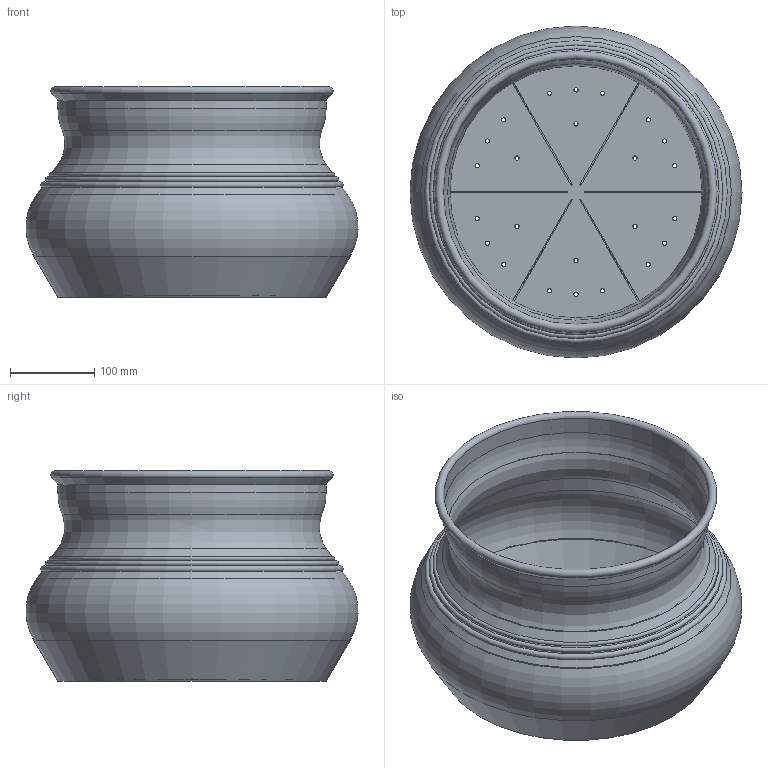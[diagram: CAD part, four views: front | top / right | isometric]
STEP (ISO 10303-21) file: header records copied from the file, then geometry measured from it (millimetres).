
FILE_DESCRIPTION(/* description */ (''),/* implementation_level */ '2;1');
FILE_NAME(/* name */ 'LR2406-S17-H250-D400_step.step',/* time_stamp */ '2024-02-01T11:04:23+01:00',/* author */ (''),/* organization */ (''),/* preprocessor_version */ 'ST-DEVELOPER v20',/* originating_system */ 'Autodesk Translation Framework v12.20.1.177',/* authorisation */ '');
FILE_SCHEMA (('AUTOMOTIVE_DESIGN { 1 0 10303 214 3 1 1 }'));
Length unit declared in the file: millimetre
Products named in the file (1): LR2406-S17-H250-D400
Bounding box: 394.63 x 394.63 x 250 mm (x, y, z)
Volume: 774960.8 mm3; surface area: 772287.4 mm2
Topology: 1 solids, 1 shells, 70 faces, 185 edges, 117 vertices
Faces by surface type: cylinder 32, plane 20, torus 10, cone 8
Full cylindrical faces by diameter (mm): 5 x24, 315.36 x1, 318.72 x1
Entity records: 2336 total; most frequent: DIRECTION 430, CARTESIAN_POINT 373, ORIENTED_EDGE 370, EDGE_CURVE 185, AXIS2_PLACEMENT_3D 174, EDGE_LOOP 118, VERTEX_POINT 117, CIRCLE 103
